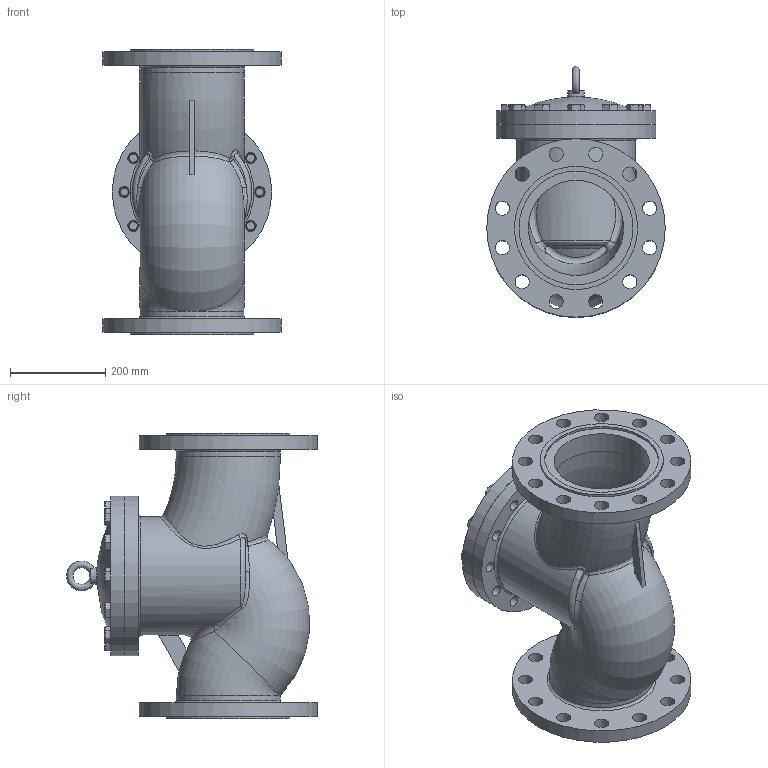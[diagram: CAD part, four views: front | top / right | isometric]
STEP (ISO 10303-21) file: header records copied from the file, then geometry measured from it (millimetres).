
FILE_DESCRIPTION(('STEP AP214'), '1');
FILE_NAME('VCR3434-F 孰囡囗 钺疣蝽 DN.ru 捏200 畜40', '', ('UNSPECIFIED'), ('UNSPECIFIED'), 'C3D Converter', 'C3D Toolkit', '');
FILE_SCHEMA(('AUTOMOTIVE_DESIGN { 1 0 10303 214 3 1 1}'));
Length unit declared in the file: millimetre
Products named in the file (1): VCR3434-F
Bounding box: 375 x 527.46 x 600 mm (x, y, z)
Volume: 24135162.3 mm3; surface area: 1706821.5 mm2
Topology: 1 solids, 2 shells, 507 faces, 1170 edges, 718 vertices
Faces by surface type: plane 246, cylinder 96, cone 88, bspline 30, extrusion 29, torus 17, sphere 1
Full cylindrical faces by diameter (mm): 15 x1, 16 x1, 20 x12, 23 x24, 30 x36, 200 x2, 219 x2, 239 x2, 250 x1, 259 x2, 335 x2, 375 x2
Entity records: 48768 total; most frequent: CARTESIAN_POINT 37816, ORIENTED_EDGE 2110, DIRECTION 2094, EDGE_CURVE 1055, AXIS2_PLACEMENT_3D 868, EDGE_LOOP 748, VERTEX_POINT 717, FACE_BOUND 572
